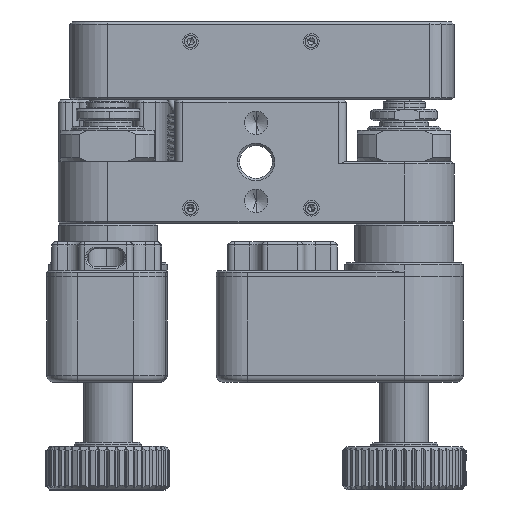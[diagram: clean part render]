
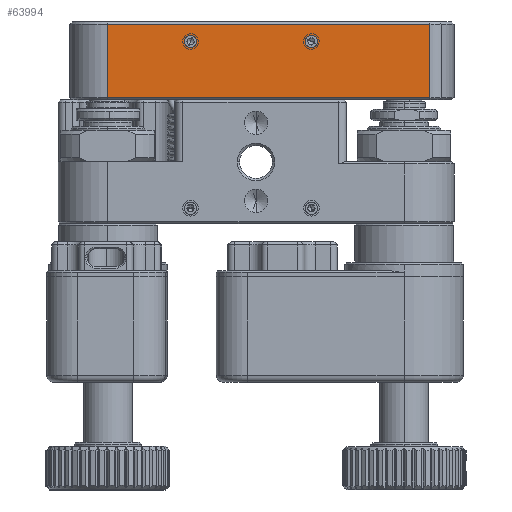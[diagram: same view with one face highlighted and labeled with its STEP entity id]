
A CAD part, front view. The second image highlights one B-rep face of the part: STEP entity #63994.
In plain terms, the highlighted planar face has unit normal (0, -1, 0).
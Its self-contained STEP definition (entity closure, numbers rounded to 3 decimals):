
#238 = ORIENTED_EDGE ( 'NONE', *, *, #47450, .T. ) ;
#1063 = VECTOR ( 'NONE', #63985, 1000. ) ;
#3914 = CARTESIAN_POINT ( 'NONE',  ( -23.9, -23.9, 16.2 ) ) ;
#6178 = CARTESIAN_POINT ( 'NONE',  ( -23.9, -23.9, 25.9 ) ) ;
#7282 = EDGE_CURVE ( 'NONE', #88291, #18912, #79010, .T. ) ;
#8535 = CARTESIAN_POINT ( 'NONE',  ( 7.1, -23.9, 23.4 ) ) ;
#10813 = CARTESIAN_POINT ( 'NONE',  ( -19., -23.9, 25.6 ) ) ;
#13203 = DIRECTION ( 'NONE',  ( 1., 0., 0. ) ) ;
#13305 = ORIENTED_EDGE ( 'NONE', *, *, #28205, .F. ) ;
#16510 = EDGE_CURVE ( 'NONE', #49836, #36063, #20391, .T. ) ;
#18812 = ORIENTED_EDGE ( 'NONE', *, *, #7282, .F. ) ;
#18912 = VERTEX_POINT ( 'NONE', #32173 ) ;
#20196 = EDGE_CURVE ( 'NONE', #21419, #20547, #47388, .T. ) ;
#20335 = LINE ( 'NONE', #92002, #41679 ) ;
#20391 = LINE ( 'NONE', #3914, #54877 ) ;
#20392 = CIRCLE ( 'NONE', #83647, 0.8 ) ;
#20498 = AXIS2_PLACEMENT_3D ( 'NONE', #6178, #29076, #66680 ) ;
#20547 = VERTEX_POINT ( 'NONE', #32157 ) ;
#21287 = CARTESIAN_POINT ( 'NONE',  ( -8.4, -23.9, 22.6 ) ) ;
#21419 = VERTEX_POINT ( 'NONE', #55859 ) ;
#21791 = VERTEX_POINT ( 'NONE', #21287 ) ;
#22856 = ORIENTED_EDGE ( 'NONE', *, *, #16510, .T. ) ;
#23512 = DIRECTION ( 'NONE',  ( 0., -1., 0. ) ) ;
#24581 = EDGE_CURVE ( 'NONE', #36063, #21419, #78340, .T. ) ;
#28205 = EDGE_CURVE ( 'NONE', #18912, #88291, #20392, .T. ) ;
#29076 = DIRECTION ( 'NONE',  ( 0., 1., 0. ) ) ;
#30791 = DIRECTION ( 'NONE',  ( 0., 0., -1. ) ) ;
#32157 = CARTESIAN_POINT ( 'NONE',  ( -19., -23.9, 25.6 ) ) ;
#32173 = CARTESIAN_POINT ( 'NONE',  ( 7.1, -23.9, 22.6 ) ) ;
#34275 = CARTESIAN_POINT ( 'NONE',  ( 22.309, -23.9, 25.9 ) ) ;
#36063 = VERTEX_POINT ( 'NONE', #58917 ) ;
#40007 = FACE_BOUND ( 'NONE', #98310, .T. ) ;
#41379 = CARTESIAN_POINT ( 'NONE',  ( -8.4, -23.9, 23.4 ) ) ;
#41679 = VECTOR ( 'NONE', #53392, 1000. ) ;
#46073 = DIRECTION ( 'NONE',  ( 0., 0., -1. ) ) ;
#47388 = LINE ( 'NONE', #10813, #1063 ) ;
#47450 = EDGE_CURVE ( 'NONE', #20547, #49836, #20335, .T. ) ;
#47491 = EDGE_CURVE ( 'NONE', #21791, #58809, #84544, .T. ) ;
#47937 = ORIENTED_EDGE ( 'NONE', *, *, #70417, .F. ) ;
#49141 = EDGE_LOOP ( 'NONE', ( #76550, #47937 ) ) ;
#49836 = VERTEX_POINT ( 'NONE', #50803 ) ;
#50720 = EDGE_LOOP ( 'NONE', ( #95746, #75623, #238, #22856 ) ) ;
#50803 = CARTESIAN_POINT ( 'NONE',  ( -19., -23.9, 16.2 ) ) ;
#53392 = DIRECTION ( 'NONE',  ( 0., 0., -1. ) ) ;
#53510 = CARTESIAN_POINT ( 'NONE',  ( 7.1, -23.9, 23.4 ) ) ;
#53956 = AXIS2_PLACEMENT_3D ( 'NONE', #41379, #78010, #55653 ) ;
#54180 = DIRECTION ( 'NONE',  ( 0., 0., -1. ) ) ;
#54877 = VECTOR ( 'NONE', #13203, 1000. ) ;
#55653 = DIRECTION ( 'NONE',  ( 0., 0., -1. ) ) ;
#55859 = CARTESIAN_POINT ( 'NONE',  ( 22.309, -23.9, 25.6 ) ) ;
#58809 = VERTEX_POINT ( 'NONE', #73741 ) ;
#58917 = CARTESIAN_POINT ( 'NONE',  ( 22.309, -23.9, 16.2 ) ) ;
#60780 = AXIS2_PLACEMENT_3D ( 'NONE', #8535, #69376, #46073 ) ;
#61505 = DIRECTION ( 'NONE',  ( 0., -1., 0. ) ) ;
#63985 = DIRECTION ( 'NONE',  ( -1., 0., 0. ) ) ;
#63994 = ADVANCED_FACE ( 'NONE', ( #64989, #40007, #69702 ), #97608, .F. ) ;
#64989 = FACE_BOUND ( 'NONE', #49141, .T. ) ;
#65856 = DIRECTION ( 'NONE',  ( 0., 0., 1. ) ) ;
#66680 = DIRECTION ( 'NONE',  ( 0., 0., 1. ) ) ;
#69376 = DIRECTION ( 'NONE',  ( 0., -1., 0. ) ) ;
#69702 = FACE_OUTER_BOUND ( 'NONE', #50720, .T. ) ;
#70417 = EDGE_CURVE ( 'NONE', #58809, #21791, #97603, .T. ) ;
#73741 = CARTESIAN_POINT ( 'NONE',  ( -8.4, -23.9, 24.2 ) ) ;
#74706 = VECTOR ( 'NONE', #65856, 1000. ) ;
#75623 = ORIENTED_EDGE ( 'NONE', *, *, #20196, .T. ) ;
#76550 = ORIENTED_EDGE ( 'NONE', *, *, #47491, .F. ) ;
#77349 = CARTESIAN_POINT ( 'NONE',  ( -8.4, -23.9, 23.4 ) ) ;
#78010 = DIRECTION ( 'NONE',  ( 0., -1., 0. ) ) ;
#78340 = LINE ( 'NONE', #34275, #74706 ) ;
#79010 = CIRCLE ( 'NONE', #60780, 0.8 ) ;
#83647 = AXIS2_PLACEMENT_3D ( 'NONE', #53510, #61505, #54180 ) ;
#84544 = CIRCLE ( 'NONE', #53956, 0.8 ) ;
#84556 = AXIS2_PLACEMENT_3D ( 'NONE', #77349, #23512, #30791 ) ;
#88291 = VERTEX_POINT ( 'NONE', #91407 ) ;
#91407 = CARTESIAN_POINT ( 'NONE',  ( 7.1, -23.9, 24.2 ) ) ;
#92002 = CARTESIAN_POINT ( 'NONE',  ( -19., -23.9, 25.9 ) ) ;
#95746 = ORIENTED_EDGE ( 'NONE', *, *, #24581, .T. ) ;
#97603 = CIRCLE ( 'NONE', #84556, 0.8 ) ;
#97608 = PLANE ( 'NONE',  #20498 ) ;
#98310 = EDGE_LOOP ( 'NONE', ( #13305, #18812 ) ) ;
